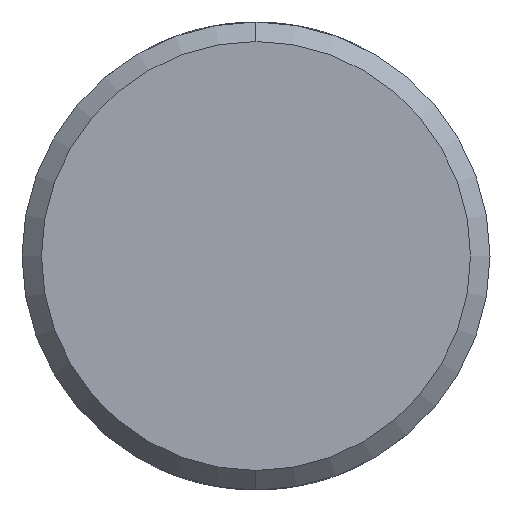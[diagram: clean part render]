
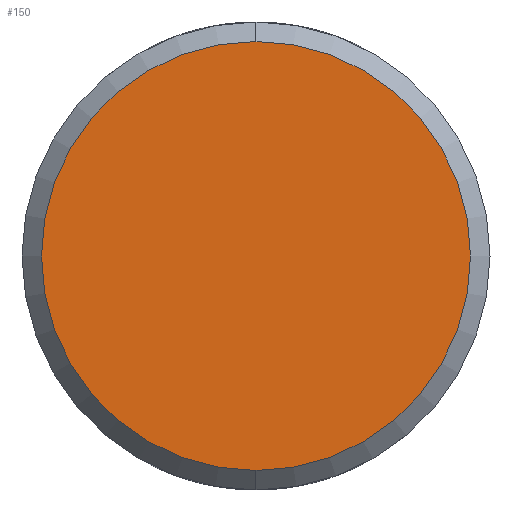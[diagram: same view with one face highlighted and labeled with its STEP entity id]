
A CAD part, left-side view. The second image highlights one B-rep face of the part: STEP entity #150.
In plain terms, the highlighted planar face has unit normal (-1, 0, 0).
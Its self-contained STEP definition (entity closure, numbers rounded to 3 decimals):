
#19 = VERTEX_POINT ( 'NONE', #822 ) ;
#29 = DIRECTION ( 'NONE',  ( 0., 0., -1. ) ) ;
#31 = AXIS2_PLACEMENT_3D ( 'NONE', #261, #253, #481 ) ;
#59 = ORIENTED_EDGE ( 'NONE', *, *, #724, .T. ) ;
#64 = VERTEX_POINT ( 'NONE', #350 ) ;
#145 = EDGE_CURVE ( 'NONE', #64, #19, #723, .T. ) ;
#150 = ADVANCED_FACE ( 'NONE', ( #799 ), #966, .F. ) ;
#188 = CARTESIAN_POINT ( 'NONE',  ( -72., 0., 0. ) ) ;
#235 = CARTESIAN_POINT ( 'NONE',  ( -72., 0., 0. ) ) ;
#253 = DIRECTION ( 'NONE',  ( 1., 0., 0. ) ) ;
#261 = CARTESIAN_POINT ( 'NONE',  ( -72., 0., 0. ) ) ;
#309 = DIRECTION ( 'NONE',  ( -1., 0., 0. ) ) ;
#350 = CARTESIAN_POINT ( 'NONE',  ( -72., 0., 5.5 ) ) ;
#372 = AXIS2_PLACEMENT_3D ( 'NONE', #188, #559, #29 ) ;
#393 = DIRECTION ( 'NONE',  ( 0., 0., -1. ) ) ;
#481 = DIRECTION ( 'NONE',  ( 0., 0., -1. ) ) ;
#559 = DIRECTION ( 'NONE',  ( -1., 0., 0. ) ) ;
#643 = AXIS2_PLACEMENT_3D ( 'NONE', #235, #309, #393 ) ;
#674 = CIRCLE ( 'NONE', #643, 5.5 ) ;
#723 = CIRCLE ( 'NONE', #372, 5.5 ) ;
#724 = EDGE_CURVE ( 'NONE', #19, #64, #674, .T. ) ;
#745 = ORIENTED_EDGE ( 'NONE', *, *, #145, .T. ) ;
#799 = FACE_OUTER_BOUND ( 'NONE', #995, .T. ) ;
#822 = CARTESIAN_POINT ( 'NONE',  ( -72., 0., -5.5 ) ) ;
#966 = PLANE ( 'NONE',  #31 ) ;
#995 = EDGE_LOOP ( 'NONE', ( #59, #745 ) ) ;
